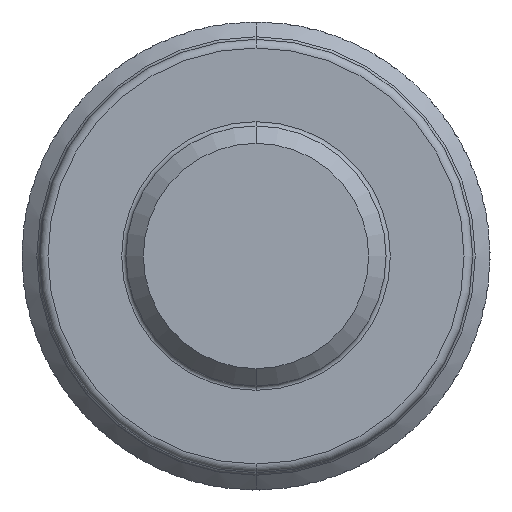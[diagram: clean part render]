
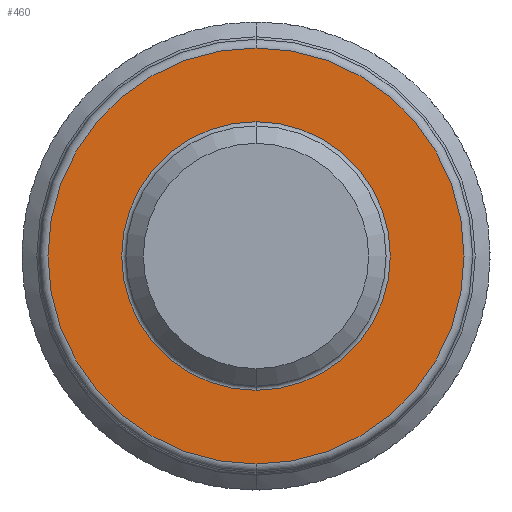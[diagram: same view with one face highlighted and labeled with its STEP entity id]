
A CAD part, front view. The second image highlights one B-rep face of the part: STEP entity #460.
In plain terms, the highlighted planar face has unit normal (0, -1, 0).
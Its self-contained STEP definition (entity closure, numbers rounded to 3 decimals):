
#11 = ORIENTED_EDGE ( 'NONE', *, *, #7135, .T. ) ;
#223 = EDGE_LOOP ( 'NONE', ( #1848, #3652 ) ) ;
#460 = ADVANCED_FACE ( 'NONE', ( #5119, #9606 ), #4111, .T. ) ;
#877 = CARTESIAN_POINT ( 'NONE',  ( 0., -3., 1.55 ) ) ;
#1044 = DIRECTION ( 'NONE',  ( 0., -1., 0. ) ) ;
#1371 = DIRECTION ( 'NONE',  ( 0., -1., 0. ) ) ;
#1527 = DIRECTION ( 'NONE',  ( 0., 0., -1. ) ) ;
#1584 = CARTESIAN_POINT ( 'NONE',  ( 0., -3., 0. ) ) ;
#1688 = DIRECTION ( 'NONE',  ( 0., 0., -1. ) ) ;
#1848 = ORIENTED_EDGE ( 'NONE', *, *, #7391, .T. ) ;
#2069 = AXIS2_PLACEMENT_3D ( 'NONE', #5282, #1371, #1527 ) ;
#2623 = EDGE_LOOP ( 'NONE', ( #3279, #11 ) ) ;
#3279 = ORIENTED_EDGE ( 'NONE', *, *, #9611, .T. ) ;
#3361 = CARTESIAN_POINT ( 'NONE',  ( 1.5, -3., 0. ) ) ;
#3380 = CARTESIAN_POINT ( 'NONE',  ( 0., -3., 0. ) ) ;
#3652 = ORIENTED_EDGE ( 'NONE', *, *, #4619, .T. ) ;
#4111 = PLANE ( 'NONE',  #6381 ) ;
#4190 = CARTESIAN_POINT ( 'NONE',  ( 0., -3., 2.4 ) ) ;
#4227 = CIRCLE ( 'NONE', #2069, 2.4 ) ;
#4619 = EDGE_CURVE ( 'NONE', #9233, #7076, #9166, .T. ) ;
#4965 = DIRECTION ( 'NONE',  ( 0., -1., 0. ) ) ;
#5119 = FACE_BOUND ( 'NONE', #2623, .T. ) ;
#5282 = CARTESIAN_POINT ( 'NONE',  ( 0., -3., 0. ) ) ;
#5455 = AXIS2_PLACEMENT_3D ( 'NONE', #7998, #1044, #6467 ) ;
#5740 = AXIS2_PLACEMENT_3D ( 'NONE', #3380, #6456, #1688 ) ;
#5823 = DIRECTION ( 'NONE',  ( 0., 0., -1. ) ) ;
#6122 = VERTEX_POINT ( 'NONE', #7629 ) ;
#6381 = AXIS2_PLACEMENT_3D ( 'NONE', #3361, #4965, #5823 ) ;
#6456 = DIRECTION ( 'NONE',  ( 0., 1., 0. ) ) ;
#6467 = DIRECTION ( 'NONE',  ( 0., 0., -1. ) ) ;
#7017 = DIRECTION ( 'NONE',  ( 0., 0., -1. ) ) ;
#7076 = VERTEX_POINT ( 'NONE', #7778 ) ;
#7135 = EDGE_CURVE ( 'NONE', #7953, #6122, #7788, .T. ) ;
#7299 = AXIS2_PLACEMENT_3D ( 'NONE', #1584, #9485, #7017 ) ;
#7391 = EDGE_CURVE ( 'NONE', #7076, #9233, #4227, .T. ) ;
#7629 = CARTESIAN_POINT ( 'NONE',  ( 0., -3., -1.55 ) ) ;
#7778 = CARTESIAN_POINT ( 'NONE',  ( 0., -3., -2.4 ) ) ;
#7788 = CIRCLE ( 'NONE', #7299, 1.55 ) ;
#7953 = VERTEX_POINT ( 'NONE', #877 ) ;
#7998 = CARTESIAN_POINT ( 'NONE',  ( 0., -3., 0. ) ) ;
#8628 = CIRCLE ( 'NONE', #5740, 1.55 ) ;
#9166 = CIRCLE ( 'NONE', #5455, 2.4 ) ;
#9233 = VERTEX_POINT ( 'NONE', #4190 ) ;
#9485 = DIRECTION ( 'NONE',  ( 0., 1., 0. ) ) ;
#9606 = FACE_OUTER_BOUND ( 'NONE', #223, .T. ) ;
#9611 = EDGE_CURVE ( 'NONE', #6122, #7953, #8628, .T. ) ;
